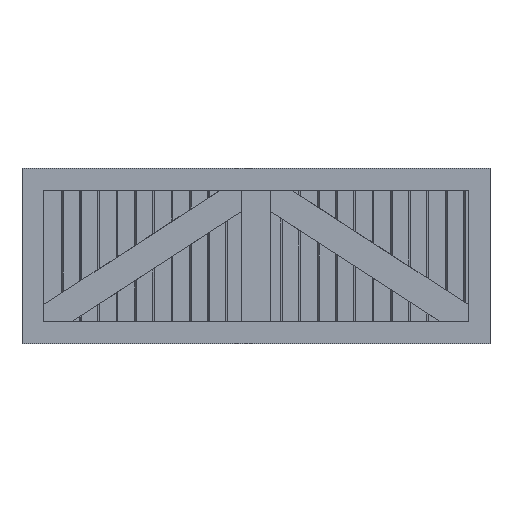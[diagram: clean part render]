
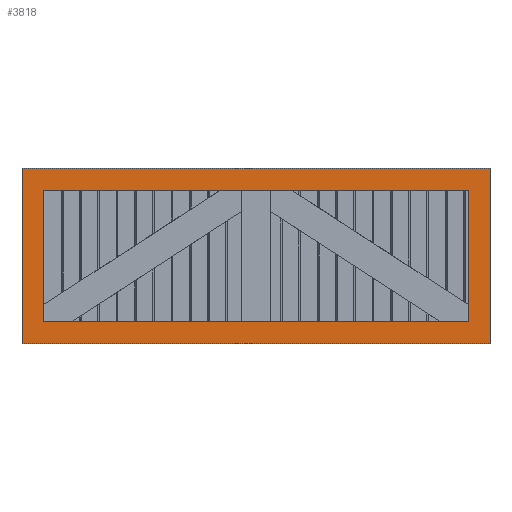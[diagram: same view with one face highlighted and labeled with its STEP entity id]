
A CAD part, top view. The second image highlights one B-rep face of the part: STEP entity #3818.
In plain terms, the highlighted planar face has unit normal (0, 0, 1).
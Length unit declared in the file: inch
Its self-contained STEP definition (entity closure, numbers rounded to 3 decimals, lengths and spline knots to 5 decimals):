
#33 = ORIENTED_EDGE ( 'NONE', *, *, #1832, .F. ) ;
#38 = CARTESIAN_POINT ( 'NONE',  ( -4., 3., 2.5 ) ) ;
#155 = EDGE_LOOP ( 'NONE', ( #741, #33, #2593, #2408 ) ) ;
#157 = CARTESIAN_POINT ( 'NONE',  ( -4., 0., 2.5 ) ) ;
#243 = VECTOR ( 'NONE', #1370, 39.37008 ) ;
#365 = CARTESIAN_POINT ( 'NONE',  ( -4., 3., 2.5 ) ) ;
#466 = VERTEX_POINT ( 'NONE', #2268 ) ;
#502 = VERTEX_POINT ( 'NONE', #595 ) ;
#573 = DIRECTION ( 'NONE',  ( 0., 1., 0. ) ) ;
#595 = CARTESIAN_POINT ( 'NONE',  ( 4., 0., 2.5 ) ) ;
#620 = DIRECTION ( 'NONE',  ( -1., 0., 0. ) ) ;
#709 = CARTESIAN_POINT ( 'NONE',  ( -3.625, 0.375, 2.5 ) ) ;
#711 = DIRECTION ( 'NONE',  ( 0., -1., 0. ) ) ;
#741 = ORIENTED_EDGE ( 'NONE', *, *, #1578, .T. ) ;
#800 = VERTEX_POINT ( 'NONE', #2162 ) ;
#836 = ORIENTED_EDGE ( 'NONE', *, *, #2345, .F. ) ;
#1028 = CARTESIAN_POINT ( 'NONE',  ( -3.625, 2.625, 2.5 ) ) ;
#1047 = DIRECTION ( 'NONE',  ( 0., -1., 0. ) ) ;
#1074 = VECTOR ( 'NONE', #711, 39.37008 ) ;
#1249 = LINE ( 'NONE', #4204, #3904 ) ;
#1297 = LINE ( 'NONE', #38, #1074 ) ;
#1370 = DIRECTION ( 'NONE',  ( 1., 0., 0. ) ) ;
#1486 = DIRECTION ( 'NONE',  ( 1., 0., 0. ) ) ;
#1552 = CARTESIAN_POINT ( 'NONE',  ( 3.625, 2.625, 2.5 ) ) ;
#1578 = EDGE_CURVE ( 'NONE', #1807, #502, #4471, .T. ) ;
#1646 = ORIENTED_EDGE ( 'NONE', *, *, #3774, .F. ) ;
#1663 = LINE ( 'NONE', #709, #2419 ) ;
#1713 = LINE ( 'NONE', #1952, #2887 ) ;
#1731 = PLANE ( 'NONE',  #3311 ) ;
#1768 = LINE ( 'NONE', #4388, #4321 ) ;
#1801 = FACE_BOUND ( 'NONE', #3601, .T. ) ;
#1807 = VERTEX_POINT ( 'NONE', #157 ) ;
#1832 = EDGE_CURVE ( 'NONE', #3260, #502, #3062, .T. ) ;
#1859 = VERTEX_POINT ( 'NONE', #3188 ) ;
#1916 = CARTESIAN_POINT ( 'NONE',  ( 4., 3., 2.5 ) ) ;
#1952 = CARTESIAN_POINT ( 'NONE',  ( -4., 3., 2.5 ) ) ;
#1970 = EDGE_CURVE ( 'NONE', #1859, #466, #1663, .T. ) ;
#2022 = DIRECTION ( 'NONE',  ( 0., 0., -1. ) ) ;
#2160 = VECTOR ( 'NONE', #4016, 39.37008 ) ;
#2162 = CARTESIAN_POINT ( 'NONE',  ( 3.625, 0.375, 2.5 ) ) ;
#2268 = CARTESIAN_POINT ( 'NONE',  ( -3.625, 0.375, 2.5 ) ) ;
#2306 = EDGE_CURVE ( 'NONE', #4439, #3260, #1713, .T. ) ;
#2345 = EDGE_CURVE ( 'NONE', #800, #2534, #1768, .T. ) ;
#2408 = ORIENTED_EDGE ( 'NONE', *, *, #4457, .T. ) ;
#2419 = VECTOR ( 'NONE', #1047, 39.37008 ) ;
#2534 = VERTEX_POINT ( 'NONE', #1552 ) ;
#2593 = ORIENTED_EDGE ( 'NONE', *, *, #2306, .F. ) ;
#2655 = DIRECTION ( 'NONE',  ( 1., 0., 0. ) ) ;
#2666 = CARTESIAN_POINT ( 'NONE',  ( 4., 3., 2.5 ) ) ;
#2759 = CARTESIAN_POINT ( 'NONE',  ( -4., 0., 2.5 ) ) ;
#2887 = VECTOR ( 'NONE', #2655, 39.37008 ) ;
#3029 = VECTOR ( 'NONE', #620, 39.37008 ) ;
#3062 = LINE ( 'NONE', #1916, #2160 ) ;
#3085 = DIRECTION ( 'NONE',  ( -1., 0., 0. ) ) ;
#3188 = CARTESIAN_POINT ( 'NONE',  ( -3.625, 2.625, 2.5 ) ) ;
#3260 = VERTEX_POINT ( 'NONE', #2666 ) ;
#3311 = AXIS2_PLACEMENT_3D ( 'NONE', #3748, #2022, #3085 ) ;
#3601 = EDGE_LOOP ( 'NONE', ( #1646, #836, #4480, #4000 ) ) ;
#3683 = FACE_OUTER_BOUND ( 'NONE', #155, .T. ) ;
#3748 = CARTESIAN_POINT ( 'NONE',  ( -4., 3., 2.5 ) ) ;
#3774 = EDGE_CURVE ( 'NONE', #2534, #1859, #4237, .T. ) ;
#3818 = ADVANCED_FACE ( 'NONE', ( #1801, #3683 ), #1731, .F. ) ;
#3904 = VECTOR ( 'NONE', #1486, 39.37008 ) ;
#4000 = ORIENTED_EDGE ( 'NONE', *, *, #1970, .F. ) ;
#4016 = DIRECTION ( 'NONE',  ( 0., -1., 0. ) ) ;
#4204 = CARTESIAN_POINT ( 'NONE',  ( -3.625, 0.375, 2.5 ) ) ;
#4237 = LINE ( 'NONE', #1028, #3029 ) ;
#4321 = VECTOR ( 'NONE', #573, 39.37008 ) ;
#4388 = CARTESIAN_POINT ( 'NONE',  ( 3.625, 0.375, 2.5 ) ) ;
#4435 = EDGE_CURVE ( 'NONE', #466, #800, #1249, .T. ) ;
#4439 = VERTEX_POINT ( 'NONE', #365 ) ;
#4457 = EDGE_CURVE ( 'NONE', #4439, #1807, #1297, .T. ) ;
#4471 = LINE ( 'NONE', #2759, #243 ) ;
#4480 = ORIENTED_EDGE ( 'NONE', *, *, #4435, .F. ) ;
